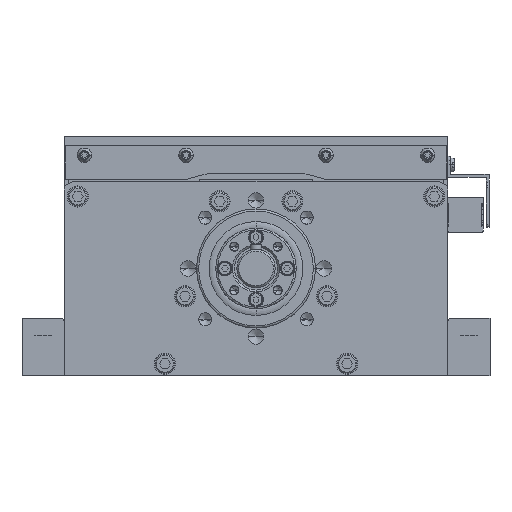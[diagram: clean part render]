
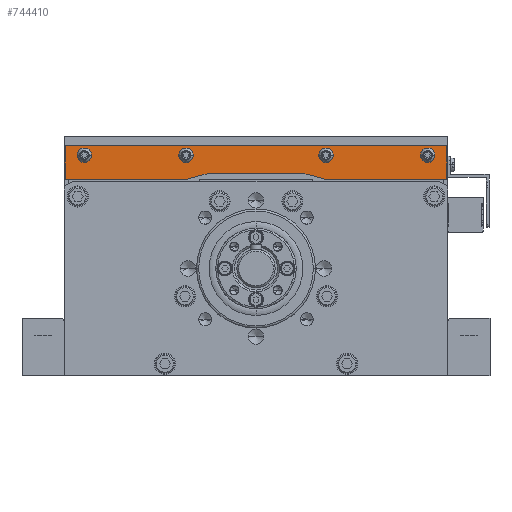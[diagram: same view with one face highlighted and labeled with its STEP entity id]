
A CAD part, front view. The second image highlights one B-rep face of the part: STEP entity #744410.
In plain terms, the highlighted planar face has unit normal (0, -1, 0).
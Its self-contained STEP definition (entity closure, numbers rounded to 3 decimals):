
#738970=CARTESIAN_POINT('',(121.25,-4.,1.5));
#738980=VERTEX_POINT('',#738970);
#739060=CARTESIAN_POINT('',(125.75,-4.,1.5));
#739070=VERTEX_POINT('',#739060);
#739100=CARTESIAN_POINT('',(123.5,-4.,1.5));
#739110=DIRECTION('',(0.,-1.,0.));
#739120=DIRECTION('',(1.,0.,0.));
#739130=AXIS2_PLACEMENT_3D('',#739100,#739110,#739120);
#739140=CIRCLE('',#739130,2.25);
#739150=EDGE_CURVE('',#738980,#739070,#739140,.T.);
#739290=CARTESIAN_POINT('',(-12.5,-4.,6.5));
#739300=VERTEX_POINT('',#739290);
#739330=CARTESIAN_POINT('',(-12.5,-4.,0.))
;
#739340=DIRECTION('',(0.,0.,-1.));
#739350=VECTOR('',#739340,1.);
#739360=LINE('',#739330,#739350);
#739370=CARTESIAN_POINT('',(-12.5,-4.,-11.));
#739380=VERTEX_POINT('',#739370);
#739390=EDGE_CURVE('',#739300,#739380,#739360,.T.);
#739940=CARTESIAN_POINT('',(0.,-4.,-24.616));
#739950=DIRECTION('',(-0.966,0.,
-0.259));
#739960=VECTOR('',#739950,1.);
#739970=LINE('',#739940,#739960);
#739980=CARTESIAN_POINT('',(62.013,-4.,-8.));
#739990=VERTEX_POINT('',#739980);
#740000=CARTESIAN_POINT('',(50.816,-4.,-11.));
#740010=VERTEX_POINT('',#740000);
#740020=EDGE_CURVE('',#739990,#740010,#739970,.T.);
#740340=CARTESIAN_POINT('',(0.,-4.,-8.));
#740350=DIRECTION('',(-1.,0.,0.));
#740360=VECTOR('',#740350,1.);
#740370=LINE('',#740340,#740360);
#740380=CARTESIAN_POINT('',(112.013,-4.,-8.));
#740390=VERTEX_POINT('',#740380);
#740400=EDGE_CURVE('',#740390,#739990,#740370,.T.);
#740940=CARTESIAN_POINT('',(0.,-4.,-11.));
#740950=DIRECTION('',(-1.,0.,0.));
#740960=VECTOR('',#740950,1.);
#740970=LINE('',#740940,#740960);
#740980=EDGE_CURVE('',#740010,#739380,#740970,.T.);
#741360=CARTESIAN_POINT('',(186.5,-4.,6.5));
#741370=VERTEX_POINT('',#741360);
#741400=CARTESIAN_POINT('',(0.,-4.,6.5));
#741410=DIRECTION('',(1.,0.,0.));
#741420=VECTOR('',#741410,1.);
#741430=LINE('',#741400,#741420);
#741440=EDGE_CURVE('',#739300,#741370,#741430,.T.);
#742650=CARTESIAN_POINT('',(186.5,-4.,0.
));
#742660=DIRECTION('',(0.,0.,1.));
#742670=VECTOR('',#742660,1.);
#742680=LINE('',#742650,#742670);
#742690=CARTESIAN_POINT('',(186.5,-4.,-11.));
#742700=VERTEX_POINT('',#742690);
#742710=EDGE_CURVE('',#742700,#741370,#742680,.T.);
#743310=CARTESIAN_POINT('',(174.25,-4.,1.5));
#743320=VERTEX_POINT('',#743310);
#743400=CARTESIAN_POINT('',(178.75,-4.,1.5));
#743410=VERTEX_POINT('',#743400);
#743440=CARTESIAN_POINT('',(176.5,-4.,1.5));
#743450=DIRECTION('',(0.,-1.,0.));
#743460=DIRECTION('',(1.,0.,0.));
#743470=AXIS2_PLACEMENT_3D('',#743440,#743450,#743460);
#743480=CIRCLE('',#743470,2.25);
#743490=EDGE_CURVE('',#743320,#743410,#743480,.T.);
#743780=CARTESIAN_POINT('',(70.,-4.,0.));
#743790=DIRECTION('',(0.,-1.,0.));
#743800=DIRECTION('',(1.,0.,0.));
#743810=AXIS2_PLACEMENT_3D('',#743780,#743790,#743800);
#743820=PLANE('',#743810);
#743830=CARTESIAN_POINT('',(-2.5,-4.,1.5));
#743840=DIRECTION('',(0.,-1.,0.));
#743850=DIRECTION('',(1.,0.,0.));
#743860=AXIS2_PLACEMENT_3D('',#743830,#743840,#743850);
#743870=CIRCLE('',#743860,2.25);
#743880=CARTESIAN_POINT('',(-0.25,-4.,1.5));
#743890=VERTEX_POINT('',#743880);
#743900=CARTESIAN_POINT('',(-4.75,-4.,1.5));
#743910=VERTEX_POINT('',#743900);
#743920=EDGE_CURVE('',#743890,#743910,#743870,.T.);
#743930=ORIENTED_EDGE('',*,*,#743920,.F.);
#743940=EDGE_CURVE('',#743910,#743890,#743870,.T.);
#743950=ORIENTED_EDGE('',*,*,#743940,.F.);
#743960=EDGE_LOOP('',(#743950,#743930));
#743970=FACE_BOUND('',#743960,.T.);
#743980=CARTESIAN_POINT('',(50.5,-4.,1.5));
#743990=DIRECTION('',(0.,-1.,0.));
#744000=DIRECTION('',(1.,0.,0.));
#744010=AXIS2_PLACEMENT_3D('',#743980,#743990,#744000);
#744020=CIRCLE('',#744010,2.25);
#744030=CARTESIAN_POINT('',(52.75,-4.,1.5));
#744040=VERTEX_POINT('',#744030);
#744050=CARTESIAN_POINT('',(48.25,-4.,1.5));
#744060=VERTEX_POINT('',#744050);
#744070=EDGE_CURVE('',#744040,#744060,#744020,.T.);
#744080=ORIENTED_EDGE('',*,*,#744070,.F.);
#744090=EDGE_CURVE('',#744060,#744040,#744020,.T.);
#744100=ORIENTED_EDGE('',*,*,#744090,.F.);
#744110=EDGE_LOOP('',(#744100,#744080));
#744120=FACE_BOUND('',#744110,.T.);
#744130=EDGE_CURVE('',#743410,#743320,#743480,.T.);
#744140=ORIENTED_EDGE('',*,*,#744130,.F.);
#744150=ORIENTED_EDGE('',*,*,#743490,.F.);
#744160=EDGE_LOOP('',(#744150,#744140));
#744170=FACE_BOUND('',#744160,.T.);
#744180=EDGE_CURVE('',#739070,#738980,#739140,.T.);
#744190=ORIENTED_EDGE('',*,*,#744180,.F.);
#744200=ORIENTED_EDGE('',*,*,#739150,.F.);
#744210=EDGE_LOOP('',(#744200,#744190));
#744220=FACE_BOUND('',#744210,.T.);
#744230=ORIENTED_EDGE('',*,*,#739390,.T.);
#744240=ORIENTED_EDGE('',*,*,#741440,.F.);
#744250=ORIENTED_EDGE('',*,*,#742710,.T.);
#744260=CARTESIAN_POINT('',(123.209,-4.,-11.));
#744270=VERTEX_POINT('',#744260);
#744280=EDGE_CURVE('',#742700,#744270,#740970,.T.);
#744290=ORIENTED_EDGE('',*,*,#744280,.F.);
#744300=CARTESIAN_POINT('',(0.,-4.,22.014));
#744310=DIRECTION('',(-0.966,0.,
0.259));
#744320=VECTOR('',#744310,1.);
#744330=LINE('',#744300,#744320);
#744340=EDGE_CURVE('',#744270,#740390,#744330,.T.);
#744350=ORIENTED_EDGE('',*,*,#744340,.F.);
#744360=ORIENTED_EDGE('',*,*,#740400,.F.);
#744370=ORIENTED_EDGE('',*,*,#740020,.F.);
#744380=ORIENTED_EDGE('',*,*,#740980,.F.);
#744390=EDGE_LOOP('',(#744380,#744370,#744360,#744350,#744290,#744250,
#744240,#744230));
#744400=FACE_OUTER_BOUND('',#744390,.T.);
#744410=ADVANCED_FACE('',(#743970,#744120,#744170,#744220,#744400),
#743820,.T.);
